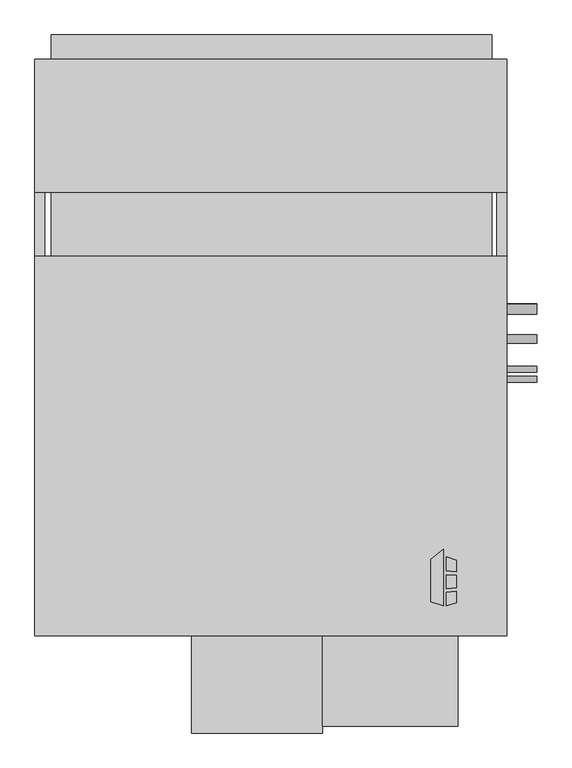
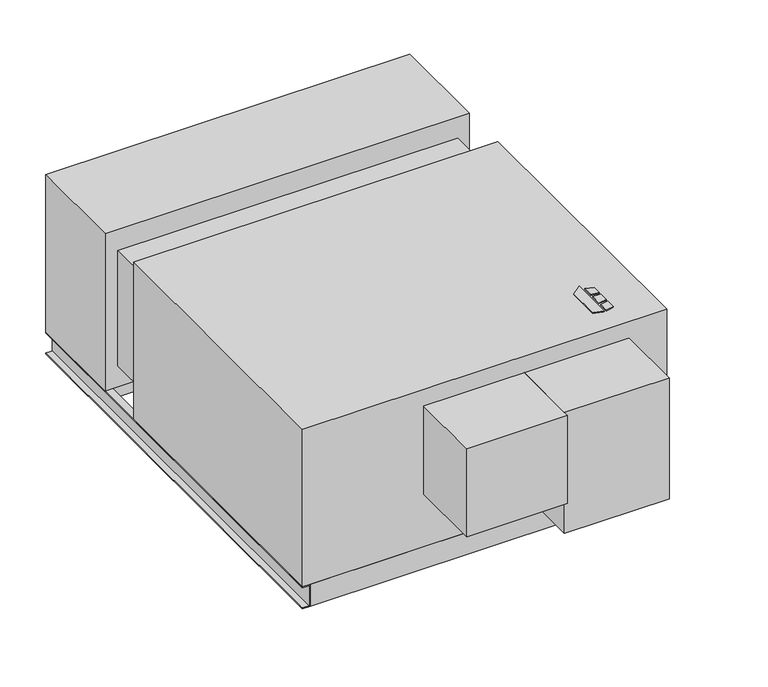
"""IFC4 building model written with IfcOpenShell, lengths in millimetres: proxy geometry, Horizontal_Direct_Drive_Blower_Coil_Unit_-_HDY_-_IEC_-_4-Pipe_NFilterR_W-MixingBox_RH_2022 : Size 16 - 460v/60Hz/3Ph - 6/2 Coil."""

import ifcopenshell
import ifcopenshell.guid

model = None  # the IFC model being written
_history = None  # IfcOwnerHistory: only IFC2X3 demands one
_inside = {}  # id of a spatial element -> (the spatial element, [elements in it])
_under = {}  # id of a project, library or spatial element -> (it, [spatial elements below it])
_declared = {}  # id of a project -> (the project, [libraries it declares])
_typed = {}  # id of a type object -> (the type object, [elements of that type])
_made_of = {}  # id of a material, layer set ... -> (it, [elements and type objects made of it])


def new_model(schema):
    """Start an empty IFC model of exactly this schema.

    Asked for "IFC4X3", IfcOpenShell would pick the latest addendum, in which some entities
    have other attributes; the version numbers below select the first issue.
    IFC2X3 requires an IfcOwnerHistory on every rooted entity: one is made here for all.
    """
    global model, _history
    if schema == "IFC4X3":
        model = ifcopenshell.file(schema_version=(4, 3, 0, 0))
    else:
        model = ifcopenshell.file(schema=schema)
    _inside.clear()
    _under.clear()
    _declared.clear()
    _typed.clear()
    _made_of.clear()
    _history = None
    if model.schema == "IFC2X3":
        org = make("IfcOrganization", Name="unknown")
        user = make(
            "IfcPersonAndOrganization",
            ThePerson=make("IfcPerson", FamilyName="unknown"),
            TheOrganization=org,
        )
        app = make(
            "IfcApplication",
            ApplicationDeveloper=org,
            Version="unknown",
            ApplicationFullName="unknown",
            ApplicationIdentifier="unknown",
        )
        _history = make(
            "IfcOwnerHistory",
            OwningUser=user,
            OwningApplication=app,
            ChangeAction="ADDED",
            CreationDate=0,
        )
    return model


def make(cls, **values):
    """One entity of the class cls with the attributes given. An attribute that is None is left unset."""
    return model.create_entity(
        cls, **{name: value for name, value in values.items() if value is not None}
    )


def rooted(cls, **values):
    """An entity with a GlobalId (a new one), such as an element, a storey or a relation."""
    return make(cls, GlobalId=ifcopenshell.guid.new(), OwnerHistory=_history, **values)


def si_unit(unit_type, name, prefix=None):
    """IfcSIUnit, for example si_unit("LENGTHUNIT", "METRE", prefix="MILLI")."""
    return make("IfcSIUnit", UnitType=unit_type, Prefix=prefix, Name=name)


def assignment(units):
    """IfcUnitAssignment: the units of a project."""
    return None if units is None else make("IfcUnitAssignment", Units=units)


def point(xyz):
    """IfcCartesianPoint."""
    return None if xyz is None else make("IfcCartesianPoint", Coordinates=xyz)


def direction(xyz):
    """IfcDirection."""
    return None if xyz is None else make("IfcDirection", DirectionRatios=xyz)


def frame(location, z_axis=None, x_axis=None):
    """IfcAxis2Placement3D, a coordinate frame: its origin and axes. An axis left out is left unset."""
    return make(
        "IfcAxis2Placement3D",
        Location=point(location),
        Axis=direction(z_axis),
        RefDirection=direction(x_axis),
    )


def frame_2d(location, x_axis=None):
    """IfcAxis2Placement2D, a coordinate frame in the plane: its origin and x axis."""
    return make(
        "IfcAxis2Placement2D", Location=point(location), RefDirection=direction(x_axis)
    )


def origin():
    """The frame at (0, 0, 0) with its axes left unset."""
    return frame((0.0, 0.0, 0.0))


def origin_with_axes():
    """The frame at (0, 0, 0) with the z axis (0, 0, 1) and the x axis (1, 0, 0) written out."""
    return frame((0.0, 0.0, 0.0), z_axis=(0.0, 0.0, 1.0), x_axis=(1.0, 0.0, 0.0))


def place(relative_to, where):
    """IfcLocalPlacement: puts the frame where relative to a parent placement (None: the world)."""
    return make(
        "IfcLocalPlacement", PlacementRelTo=relative_to, RelativePlacement=where
    )


def context(
    kind, dimensions, precision=None, world=None, true_north=None, identifier=None
):
    """IfcGeometricRepresentationContext, for example the 3D "Model" context."""
    return make(
        "IfcGeometricRepresentationContext",
        ContextIdentifier=identifier,
        ContextType=kind,
        CoordinateSpaceDimension=dimensions,
        Precision=precision,
        WorldCoordinateSystem=world,
        TrueNorth=true_north,
    )


def project(units=None, contexts=None):
    """IfcProject with its units and contexts."""
    return rooted(
        "IfcProject",
        Name="project",
        RepresentationContexts=contexts,
        UnitsInContext=assignment(units),
    )


def spatial(cls, under=None, at=None, **own):
    """A site, building, storey or space (cls), placed at a placement, below another one or the project."""
    s = rooted(cls, ObjectPlacement=at, **own)
    if under is not None:
        _under.setdefault(under.id(), (under, []))[1].append(s)
    return s


def polyline(points):
    """IfcPolyline through the points."""
    return make("IfcPolyline", Points=[point(p) for p in points])


def circle_curve(where, radius):
    """IfcCircle in the frame where."""
    return make("IfcCircle", Position=where, Radius=radius)


def trimmed(basis, trim1, trim2, sense, master):
    """IfcTrimmedCurve: the piece of a basis curve between two trims."""
    return make(
        "IfcTrimmedCurve",
        BasisCurve=basis,
        Trim1=trim1,
        Trim2=trim2,
        SenseAgreement=sense,
        MasterRepresentation=master,
    )


def segment(curve, same_sense, transition):
    """IfcCompositeCurveSegment."""
    return make(
        "IfcCompositeCurveSegment",
        Transition=transition,
        SameSense=same_sense,
        ParentCurve=curve,
    )


def composite_curve(segments, self_intersect=None):
    """IfcCompositeCurve: segments joined end to end."""
    return make("IfcCompositeCurve", Segments=segments, SelfIntersect=self_intersect)


def outline(outer, holes=None, kind="AREA"):
    """IfcArbitraryClosedProfileDef: a profile drawn as a closed curve; with holes, ...WithVoids."""
    if holes is None:
        return make("IfcArbitraryClosedProfileDef", ProfileType=kind, OuterCurve=outer)
    return make(
        "IfcArbitraryProfileDefWithVoids",
        ProfileType=kind,
        OuterCurve=outer,
        InnerCurves=holes,
    )


def extrude(swept, where, along, depth):
    """IfcExtrudedAreaSolid: the profile swept, set in the frame where, extruded along a direction by depth."""
    return make(
        "IfcExtrudedAreaSolid",
        SweptArea=swept,
        Position=where,
        ExtrudedDirection=direction(along),
        Depth=depth,
    )


def shape(context_of_items, identifier, shape_type, items):
    """IfcShapeRepresentation: the items that make up one representation, for example the "Body"."""
    return make(
        "IfcShapeRepresentation",
        ContextOfItems=context_of_items,
        RepresentationIdentifier=identifier,
        RepresentationType=shape_type,
        Items=items,
    )


def source(mapping_origin, context_of_items, identifier, shape_type, items):
    """IfcRepresentationMap: a shape defined once, which mapped items show again and again."""
    return make(
        "IfcRepresentationMap",
        MappingOrigin=mapping_origin,
        MappedRepresentation=shape(context_of_items, identifier, shape_type, items),
    )


def transform(
    local_origin,
    x_axis=None,
    y_axis=None,
    z_axis=None,
    scale=None,
    scale2=None,
    scale3=None,
    uniform=True,
):
    """IfcCartesianTransformationOperator3D, or its non-uniform kind. x_axis, y_axis, z_axis: its Axis1, 2, 3."""
    if uniform:
        return make(
            "IfcCartesianTransformationOperator3D",
            Axis1=direction(x_axis),
            Axis2=direction(y_axis),
            LocalOrigin=point(local_origin),
            Scale=scale,
            Axis3=direction(z_axis),
        )
    return make(
        "IfcCartesianTransformationOperator3DnonUniform",
        Axis1=direction(x_axis),
        Axis2=direction(y_axis),
        LocalOrigin=point(local_origin),
        Scale=scale,
        Axis3=direction(z_axis),
        Scale2=scale2,
        Scale3=scale3,
    )


def mapped(mapping_source, mapping_target):
    """IfcMappedItem: shows the shape of a source again, moved by a transform."""
    return make(
        "IfcMappedItem", MappingSource=mapping_source, MappingTarget=mapping_target
    )


def made_of(thing, what):
    """Note that an element or type object is made of a material, layer set ...; save() writes the relation."""
    if what is not None:
        _made_of.setdefault(what.id(), (what, []))[1].append(thing)
    return thing


def element(
    cls,
    number,
    at=None,
    inside=None,
    cuts=None,
    type_object=None,
    material=None,
    context=None,
    identifier="Body",
    shape_type=None,
    held_by="IfcProductDefinitionShape",
    body=None,
    shapes=None,
    **own,
):
    """One element of the class cls, such as IfcWall. Its Tag is "e" and its number.

    at: its placement. inside: the storey or other place that contains it. cuts: it is an
    opening in that element (IfcRelVoidsElement). A single representation is given by context,
    identifier, shape_type and body (its items); several are given by shapes. held_by: the class
    of the entity that holds the representations. save() writes the other relations.
    """
    e = rooted(cls, Tag="e%d" % number, ObjectPlacement=at, **own)
    if body is not None:
        shapes = [shape(context, identifier, shape_type, body)]
    if shapes is not None:
        e.Representation = make(held_by, Representations=shapes)
    if inside is not None:
        _inside.setdefault(inside.id(), (inside, []))[1].append(e)
    if cuts is not None:
        rooted(
            "IfcRelVoidsElement", RelatingBuildingElement=cuts, RelatedOpeningElement=e
        )
    if type_object is not None:
        _typed.setdefault(type_object.id(), (type_object, []))[1].append(e)
    return made_of(e, material)


def aggregate(whole, parts):
    """IfcRelAggregates: a whole, such as a stair, and the parts it consists of."""
    return rooted("IfcRelAggregates", RelatingObject=whole, RelatedObjects=parts)


def save(model, path):
    """Write the relations noted so far, then the file.

    IfcRelAggregates (storeys below a building ...), IfcRelContainedInSpatialStructure (elements
    in a storey), IfcRelDefinesByType, IfcRelAssociatesMaterial and IfcRelDeclares: one each for
    every whole, place, type object, material and project.
    """
    for whole, parts in _under.values():
        aggregate(whole, parts)
    for where, things in _inside.values():
        rooted(
            "IfcRelContainedInSpatialStructure",
            RelatedElements=things,
            RelatingStructure=where,
        )
    for kind, things in _typed.values():
        rooted("IfcRelDefinesByType", RelatedObjects=things, RelatingType=kind)
    for what, things in _made_of.values():
        rooted("IfcRelAssociatesMaterial", RelatedObjects=things, RelatingMaterial=what)
    for by, libraries in _declared.values():
        rooted("IfcRelDeclares", RelatingContext=by, RelatedDefinitions=libraries)
    model.write(path)


def mechanical_equipment_16203f2d(model_context):
    return source(origin(), model_context, "Body", "SweptSolid", [
        extrude(outline(polyline([(-65.3980239, -274.0078476), (-32.8397272, -248.5705184), (-32.8397272, -390.525), (-65.3980239, -380.3054201), (-65.3980239, -274.0078476)])), origin_with_axes(), (0.0, 0.0, 1.0), 3.175),
        extrude(outline(polyline([(-26.0813942, -301.879852), (-26.0813942, -267.3999379), (0.0, -275.5865115), (0.0, -305.0822446), (-26.0813942, -301.879852)])), origin_with_axes(), (0.0, 0.0, 1.0), 3.175),
        extrude(outline(polyline([(0.0, -383.5365115), (-26.0813942, -390.525), (-26.0813942, -357.3036996), (0.0, -353.7618564), (0.0, -383.5365115)])), origin_with_axes(), (0.0, 0.0, 1.0), 3.175),
        extrude(outline(polyline([(0.0, -314.1638277), (0.0, -345.413983), (-26.0813942, -348.155248), (-26.0813942, -312.2975378), (0.0, -314.1638277)])), origin_with_axes(), (0.0, 0.0, 1.0), 3.175),
        extrude(outline(polyline([(88.9, 889.635), (88.9, 686.435), (-1025.525, 686.435), (-1025.525, 889.635), (88.9, 889.635)])), frame((0.0, 0.0, -607.06), z_axis=(0.0, 0.0, 1.0), x_axis=(1.0, 0.0, 0.0)), (0.0, 0.0, 1.0), 60.96),
        extrude(outline(polyline([(-1025.525, 1052.195), (88.9, 1052.195), (88.9, 991.235), (-1025.525, 991.235), (-1025.525, 1052.195)])), frame((0.0, 0.0, -279.4), z_axis=(0.0, 0.0, 1.0), x_axis=(1.0, 0.0, 0.0)), (0.0, 0.0, 1.0), 203.2),
        extrude(outline(polyline([(127.0, 991.235), (127.0, 654.05), (-1066.8, 654.05), (-1066.8, 991.235), (127.0, 991.235)])), frame((0.0, 0.0, -546.1), z_axis=(0.0, 0.0, 1.0), x_axis=(1.0, 0.0, 0.0)), (0.0, 0.0, 1.0), 546.1),
        extrude(outline(polyline([(101.6, -441.325), (101.6, -466.725), (-1041.4, -466.725), (-1041.4, -441.325), (101.6, -441.325)])), frame((0.0, 0.0, -622.3), z_axis=(0.0, 0.0, 1.0), x_axis=(1.0, 0.0, 0.0)), (0.0, 0.0, 1.0), 76.2),
        extrude(outline(polyline([(101.6, 991.235), (101.6, 965.835), (-1041.4, 965.835), (-1041.4, 991.235), (101.6, 991.235)])), frame((0.0, 0.0, -622.3), z_axis=(0.0, 0.0, 1.0), x_axis=(1.0, 0.0, 0.0)), (0.0, 0.0, 1.0), 76.2),
        extrude(outline(polyline([(-546.1, -1041.4), (-546.1, -1066.8), (-549.275, -1066.8), (-549.275, -1044.575), (-619.125, -1044.575), (-619.125, -1066.8), (-622.3, -1066.8), (-622.3, -1041.4), (-546.1, -1041.4)])), frame((0.0, -466.725, 0.0), z_axis=(0.0, 1.0, 0.0), x_axis=(0.0, 0.0, 1.0)), (0.0, 0.0, 1.0), 1457.96),
        extrude(outline(polyline([(-546.1, 101.6), (-622.3, 101.6), (-622.3, 127.0), (-619.125, 127.0), (-619.125, 104.775), (-549.275, 104.775), (-549.275, 127.0), (-546.1, 127.0), (-546.1, 101.6)])), frame((0.0, -466.725, 0.0), z_axis=(0.0, 1.0, 0.0), x_axis=(0.0, 0.0, 1.0)), (0.0, 0.0, 1.0), 1457.96),
        extrude(outline(composite_curve([segment(trimmed(circle_curve(frame_2d((358.775, -177.8)), 12.7), [point((371.475, -177.8))], [point((346.075, -177.8))], False, "CARTESIAN"), True, "CONTINUOUS"), segment(trimmed(circle_curve(frame_2d((358.775, -177.8)), 12.7), [point((346.075, -177.8))], [point((371.475, -177.8))], False, "CARTESIAN"), True, "CONTINUOUS")], self_intersect=False)), frame((127.0, 0.0, 0.0), z_axis=(1.0, 0.0, 0.0), x_axis=(0.0, 1.0, 0.0)), (0.0, 0.0, 1.0), 76.2),
        extrude(outline(composite_curve([segment(trimmed(circle_curve(frame_2d((359.642288, -419.1)), 12.7), [point((372.342288, -419.1))], [point((346.942288, -419.1))], False, "CARTESIAN"), True, "CONTINUOUS"), segment(trimmed(circle_curve(frame_2d((359.642288, -419.1)), 12.7), [point((346.942288, -419.1))], [point((372.342288, -419.1))], False, "CARTESIAN"), True, "CONTINUOUS")], self_intersect=False)), frame((127.0, 0.0, 0.0), z_axis=(1.0, 0.0, 0.0), x_axis=(0.0, 1.0, 0.0)), (0.0, 0.0, 1.0), 76.2),
        extrude(outline(composite_curve([segment(trimmed(circle_curve(frame_2d((283.442288, -501.65)), 11.1125), [point((294.554788, -501.65))], [point((272.329788, -501.65))], False, "CARTESIAN"), True, "CONTINUOUS"), segment(trimmed(circle_curve(frame_2d((283.442288, -501.65)), 11.1125), [point((272.329788, -501.65))], [point((294.554788, -501.65))], False, "CARTESIAN"), True, "CONTINUOUS")], self_intersect=False)), frame((127.0, 0.0, 0.0), z_axis=(1.0, 0.0, 0.0), x_axis=(0.0, 1.0, 0.0)), (0.0, 0.0, 1.0), 76.2),
        extrude(outline(composite_curve([segment(trimmed(circle_curve(frame_2d((207.242288, -228.6)), 7.9375), [point((215.179788, -228.6))], [point((199.304788, -228.6))], False, "CARTESIAN"), True, "CONTINUOUS"), segment(trimmed(circle_curve(frame_2d((207.242288, -228.6)), 7.9375), [point((199.304788, -228.6))], [point((215.179788, -228.6))], False, "CARTESIAN"), True, "CONTINUOUS")], self_intersect=False)), frame((127.0, 0.0, 0.0), z_axis=(1.0, 0.0, 0.0), x_axis=(0.0, 1.0, 0.0)), (0.0, 0.0, 1.0), 76.2),
        extrude(outline(composite_curve([segment(trimmed(circle_curve(frame_2d((181.842288, -368.5792556)), 7.9375), [point((189.779788, -368.5792556))], [point((173.904788, -368.5792556))], False, "CARTESIAN"), True, "CONTINUOUS"), segment(trimmed(circle_curve(frame_2d((181.842288, -368.5792556)), 7.9375), [point((173.904788, -368.5792556))], [point((189.779788, -368.5792556))], False, "CARTESIAN"), True, "CONTINUOUS")], self_intersect=False)), frame((127.0, 0.0, 0.0), z_axis=(1.0, 0.0, 0.0), x_axis=(0.0, 1.0, 0.0)), (0.0, 0.0, 1.0), 76.2),
        extrude(outline(polyline([(127.0, 492.125), (127.0, -466.725), (-1066.8, -466.725), (-1066.8, 492.125), (127.0, 492.125)])), frame((0.0, 0.0, -546.1), z_axis=(0.0, 0.0, 1.0), x_axis=(1.0, 0.0, 0.0)), (0.0, 0.0, 1.0), 546.1),
        extrude(outline(polyline([(3.175, -695.325), (-339.725, -695.325), (-339.725, -466.725), (3.175, -466.725), (3.175, -695.325)])), frame((0.0, 0.0, -476.25), z_axis=(0.0, 0.0, 1.0), x_axis=(1.0, 0.0, 0.0)), (0.0, 0.0, 1.0), 419.1),
        extrude(outline(polyline([(-1025.525, 654.05), (88.9, 654.05), (88.9, 492.125), (-1025.525, 492.125), (-1025.525, 654.05)])), frame((0.0, 0.0, -473.075), z_axis=(0.0, 0.0, 1.0), x_axis=(1.0, 0.0, 0.0)), (0.0, 0.0, 1.0), 400.05),
        extrude(outline(polyline([(-339.725, -712.7875), (-669.925, -712.7875), (-669.925, -466.725), (-339.725, -466.725), (-339.725, -712.7875)])), frame((0.0, 0.0, -361.95), z_axis=(0.0, 0.0, 1.0), x_axis=(1.0, 0.0, 0.0)), (0.0, 0.0, 1.0), 304.8),
    ])


if __name__ == "__main__":
    model = new_model("IFC4")
    model_context = context("Model", 3, world=origin())
    ifc_project = project(units=[si_unit("LENGTHUNIT", "METRE", prefix="MILLI")], contexts=[model_context])
    site = spatial("IfcSite", under=ifc_project)
    building = spatial("IfcBuilding", under=site)
    placement = place(None, origin())
    mechanical_equipment_shape = mechanical_equipment_16203f2d(model_context)
    element("IfcBuildingElementProxy", 1, Name="Horizontal_Direct_Drive_Blower_Coil_Unit_-_HDY_-_IEC_-_4-Pipe_NFilterR_W-MixingBox_RH_2022 : Size 16 - 460v/60Hz/3Ph - 6/2 Coil", ObjectType="Horizontal_Direct_Drive_Blower_Coil_Unit_-_HDY_-_IEC_-_4-Pipe_NFilterR_W-MixingBox_RH_2022 : Size 16 - 460v/60Hz/3Ph - 6/2 Coil", at=placement, inside=building, context=model_context, shape_type="MappedRepresentation", body=[
        mapped(mechanical_equipment_shape, transform((0.0, 0.0, 0.0), x_axis=(1.0, 0.0, 0.0), y_axis=(0.0, 1.0, 0.0), z_axis=(0.0, 0.0, 1.0))),
    ])
    save(model, "model.ifc")
